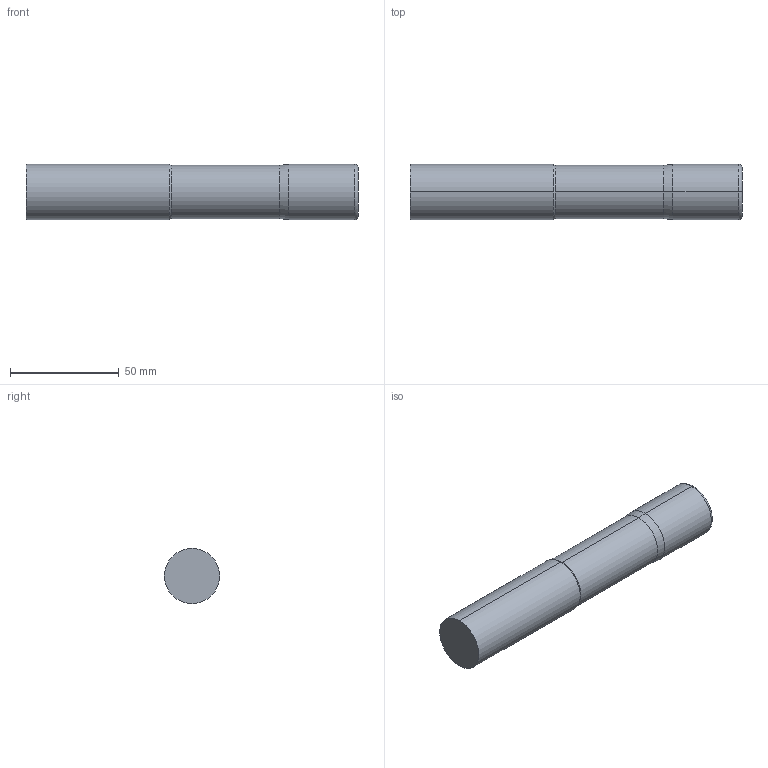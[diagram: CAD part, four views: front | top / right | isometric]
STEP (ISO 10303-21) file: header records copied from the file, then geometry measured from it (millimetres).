
FILE_DESCRIPTION (( 'STEP AP214' ), '1' );
FILE_NAME ('SSIRNL71000-060.STEP', '2025-05-30T14:48:27', ( '' ), ( '' ), 'SwSTEP 2.0', 'SolidWorks 2023', '' );
FILE_SCHEMA (( 'AUTOMOTIVE_DESIGN' ));
Length unit declared in the file: inch
Products named in the file (3): SSI7 Cut Only_SSIRNL71000-060; SSIRNL71000-060; SSI7 Shank Only_SSIRNL71000-060
Assembly tree (2 placements, depth 2):
  SSIRNL71000-060
    SSI7 Cut Only_SSIRNL71000-060
    SSI7 Shank Only_SSIRNL71000-060
Bounding box: 152.4 x 25.4 x 25.4 mm (x, y, z)
Volume: 75103.3 mm3; surface area: 13980.6 mm2
Topology: 2 solids, 2 shells, 16 faces, 28 edges, 16 vertices
Faces by surface type: cylinder 6, plane 4, cone 4, torus 2
Entity records: 484 total; most frequent: DIRECTION 88, CARTESIAN_POINT 65, ORIENTED_EDGE 56, AXIS2_PLACEMENT_3D 39, EDGE_CURVE 28, CIRCLE 18, ADVANCED_FACE 16, EDGE_LOOP 16
